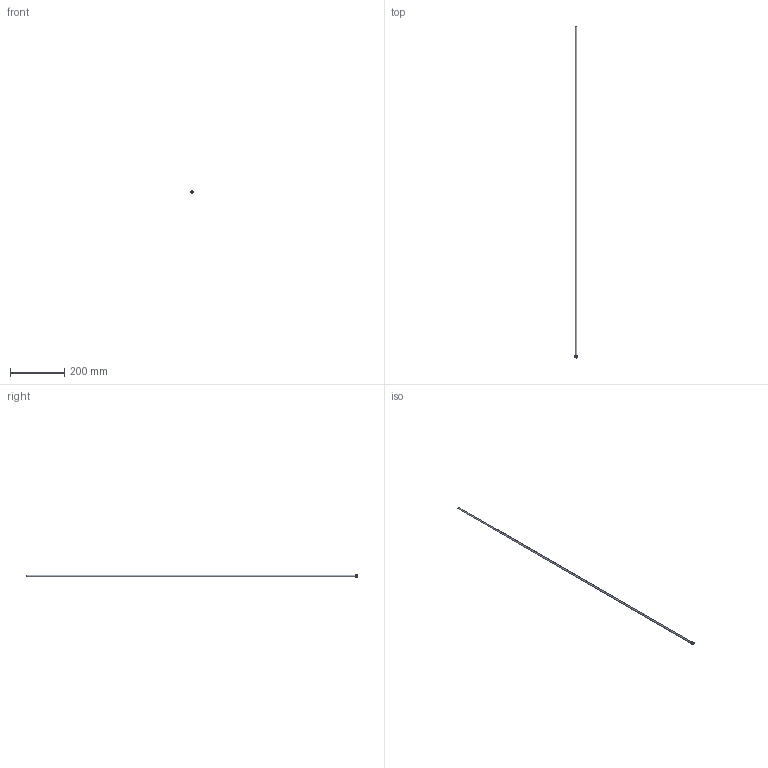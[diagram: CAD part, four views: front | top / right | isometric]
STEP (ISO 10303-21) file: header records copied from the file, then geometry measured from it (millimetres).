
FILE_DESCRIPTION(/* description */ (''),/* implementation_level */ '2;1');
FILE_NAME(/* name */ 'C:/Users/drich/Desktop/PT18-250-48 v1.step',/* time_stamp */ '2019-12-27T15:45:52-06:00',/* author */ (''),/* organization */ (''),/* preprocessor_version */ 'ST-DEVELOPER v18',/* originating_system */ 'Autodesk Translation Framework v8.12.0.6',/* authorisation */ '');
FILE_SCHEMA (('AUTOMOTIVE_DESIGN { 1 0 10303 214 3 1 1 }'));
Length unit declared in the file: inch
Products named in the file (1): PT18-250-48
Bounding box: 9.62 x 1219.2 x 9.62 mm (x, y, z)
Volume: 6192.4 mm3; surface area: 46864.5 mm2
Topology: 1 solids, 1 shells, 19 faces, 48 edges, 34 vertices
Faces by surface type: plane 11, cylinder 4, torus 2, cone 2
Full cylindrical faces by diameter (mm): 5.842 x1, 6.35 x1, 7.925 x1, 9.621 x1
Entity records: 633 total; most frequent: DIRECTION 112, CARTESIAN_POINT 102, ORIENTED_EDGE 96, EDGE_CURVE 48, AXIS2_PLACEMENT_3D 44, VERTEX_POINT 34, CIRCLE 24, EDGE_LOOP 24
